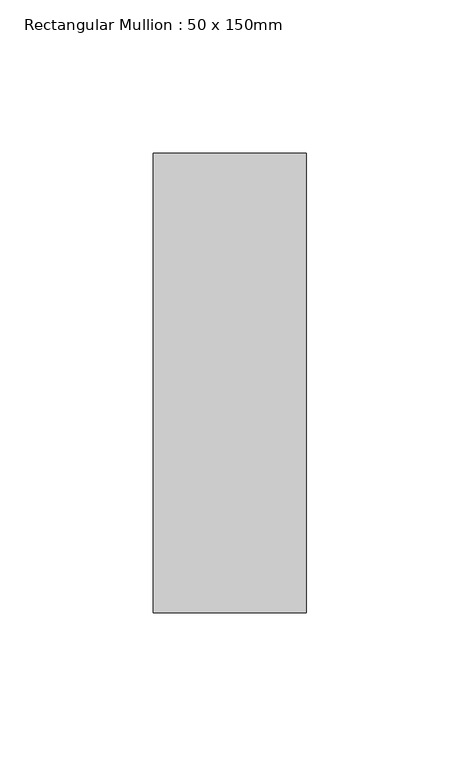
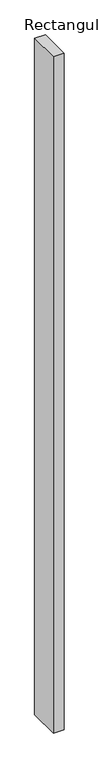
"""IFC4 building model written with IfcOpenShell, lengths in millimetres: member geometry, Rectangular Mullion : 50 x 150mm."""

from ifc_helpers import new_model, si_unit, frame, origin, place, context, project, spatial, polyline, outline, extrude, source, transform, mapped, element, save


def rectangular_mullion_50_x_150mm_aa6e6970(model_context):
    return source(origin(), model_context, "Body", "SweptSolid", [
        extrude(outline(polyline([(25.0, 75.0), (25.0, -75.0), (-25.0, -75.0), (-25.0, 75.0), (25.0, 75.0)])), frame((0.0, 0.0, -3330.0), z_axis=(0.0, 0.0, 1.0), x_axis=(1.0, 0.0, 0.0)), (0.0, 0.0, 1.0), 3330.0),
    ])


if __name__ == "__main__":
    model = new_model("IFC4")
    model_context = context("Model", 3, world=origin())
    ifc_project = project(units=[si_unit("LENGTHUNIT", "METRE", prefix="MILLI")], contexts=[model_context])
    site = spatial("IfcSite", under=ifc_project)
    building = spatial("IfcBuilding", under=site)
    placement = place(None, origin())
    rectangular_mullion_50_x_150mm_shape = rectangular_mullion_50_x_150mm_aa6e6970(model_context)
    element("IfcMember", 1, ObjectType="Rectangular Mullion : 50 x 150mm", at=placement, inside=building, context=model_context, shape_type="MappedRepresentation", body=[
        mapped(rectangular_mullion_50_x_150mm_shape, transform((0.0, 0.0, 0.0), x_axis=(1.0, 0.0, 0.0), y_axis=(0.0, 1.0, 0.0), z_axis=(0.0, 0.0, 1.0))),
    ])
    save(model, "model.ifc")
